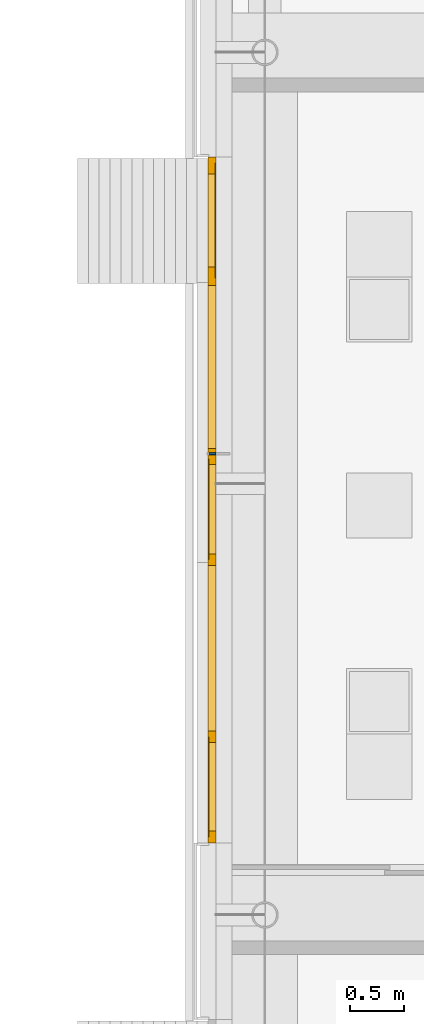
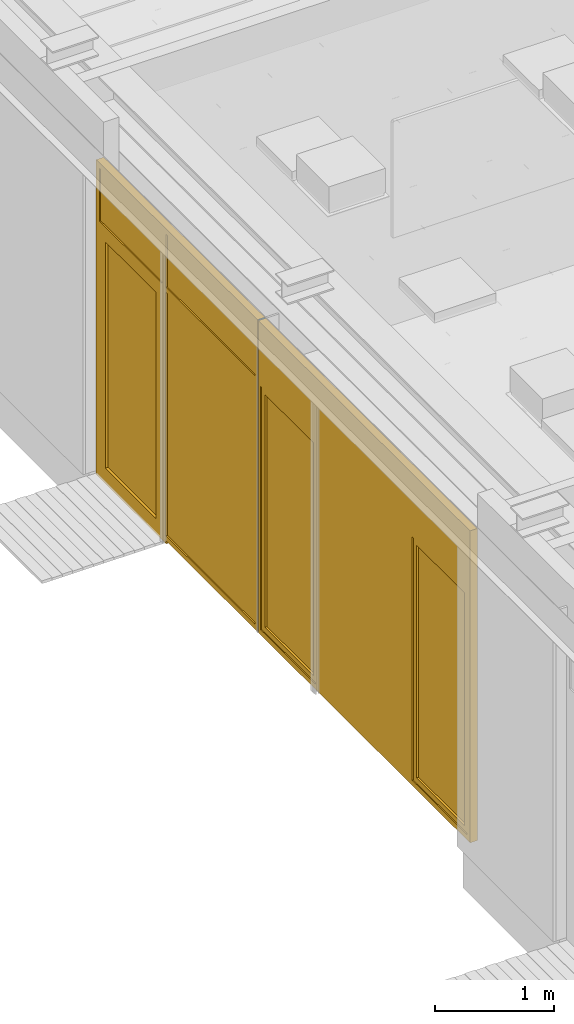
# One storey, part 27 of 347: 1 door, 1 member, 1 window, 2 openings.
"""IFC2X3 building model written with IfcOpenShell, lengths in millimetres."""

import ifcopenshell
import ifcopenshell.guid

model = None  # the IFC model being written
_history = None  # IfcOwnerHistory: only IFC2X3 demands one
_inside = {}  # id of a spatial element -> (the spatial element, [elements in it])
_under = {}  # id of a project, library or spatial element -> (it, [spatial elements below it])
_declared = {}  # id of a project -> (the project, [libraries it declares])
_typed = {}  # id of a type object -> (the type object, [elements of that type])
_made_of = {}  # id of a material, layer set ... -> (it, [elements and type objects made of it])


def new_model(schema):
    """Start an empty IFC model of exactly this schema.

    Asked for "IFC4X3", IfcOpenShell would pick the latest addendum, in which some entities
    have other attributes; the version numbers below select the first issue.
    IFC2X3 requires an IfcOwnerHistory on every rooted entity: one is made here for all.
    """
    global model, _history
    if schema == "IFC4X3":
        model = ifcopenshell.file(schema_version=(4, 3, 0, 0))
    else:
        model = ifcopenshell.file(schema=schema)
    _inside.clear()
    _under.clear()
    _declared.clear()
    _typed.clear()
    _made_of.clear()
    _history = None
    if model.schema == "IFC2X3":
        org = make("IfcOrganization", Name="unknown")
        user = make(
            "IfcPersonAndOrganization",
            ThePerson=make("IfcPerson", FamilyName="unknown"),
            TheOrganization=org,
        )
        app = make(
            "IfcApplication",
            ApplicationDeveloper=org,
            Version="unknown",
            ApplicationFullName="unknown",
            ApplicationIdentifier="unknown",
        )
        _history = make(
            "IfcOwnerHistory",
            OwningUser=user,
            OwningApplication=app,
            ChangeAction="ADDED",
            CreationDate=0,
        )
    return model


def make(cls, **values):
    """One entity of the class cls with the attributes given. An attribute that is None is left unset."""
    return model.create_entity(
        cls, **{name: value for name, value in values.items() if value is not None}
    )


def entity(cls, *values):
    """Any entity or typed value of the class cls, its attributes in the order of the schema. None: left unset."""
    e = model.create_entity(cls)
    for i, value in enumerate(values):
        if value is not None:
            e[i] = value
    return e


def rooted(cls, **values):
    """An entity with a GlobalId (a new one), such as an element, a storey or a relation."""
    return make(cls, GlobalId=ifcopenshell.guid.new(), OwnerHistory=_history, **values)


def si_unit(unit_type, name, prefix=None):
    """IfcSIUnit, for example si_unit("LENGTHUNIT", "METRE", prefix="MILLI")."""
    return make("IfcSIUnit", UnitType=unit_type, Prefix=prefix, Name=name)


def converted_unit(unit_type, name, factor, base, dimensions=None, offset=None):
    """IfcConversionBasedUnit, such as the inch: factor (a typed value) times the base unit."""
    return make(
        "IfcConversionBasedUnit"
        if offset is None
        else "IfcConversionBasedUnitWithOffset",
        ConversionOffset=offset,
        Dimensions=None
        if dimensions is None
        else entity("IfcDimensionalExponents", *dimensions),
        UnitType=unit_type,
        Name=name,
        ConversionFactor=make(
            "IfcMeasureWithUnit", ValueComponent=factor, UnitComponent=base
        ),
    )


def derived_unit(unit_type, elements):
    """IfcDerivedUnit: a product of units, each with its exponent."""
    return make(
        "IfcDerivedUnit",
        Elements=[
            make("IfcDerivedUnitElement", Unit=unit, Exponent=power)
            for unit, power in elements
        ],
        UnitType=unit_type,
    )


def money_unit(currency):
    """IfcMonetaryUnit."""
    return make("IfcMonetaryUnit", Currency=currency)


def assignment(units):
    """IfcUnitAssignment: the units of a project."""
    return None if units is None else make("IfcUnitAssignment", Units=units)


def point(xyz):
    """IfcCartesianPoint."""
    return None if xyz is None else make("IfcCartesianPoint", Coordinates=xyz)


def direction(xyz):
    """IfcDirection."""
    return None if xyz is None else make("IfcDirection", DirectionRatios=xyz)


def frame(location, z_axis=None, x_axis=None):
    """IfcAxis2Placement3D, a coordinate frame: its origin and axes. An axis left out is left unset."""
    return make(
        "IfcAxis2Placement3D",
        Location=point(location),
        Axis=direction(z_axis),
        RefDirection=direction(x_axis),
    )


def origin_with_axes():
    """The frame at (0, 0, 0) with the z axis (0, 0, 1) and the x axis (1, 0, 0) written out."""
    return frame((0.0, 0.0, 0.0), z_axis=(0.0, 0.0, 1.0), x_axis=(1.0, 0.0, 0.0))


def place(relative_to, where):
    """IfcLocalPlacement: puts the frame where relative to a parent placement (None: the world)."""
    return make(
        "IfcLocalPlacement", PlacementRelTo=relative_to, RelativePlacement=where
    )


def context(
    kind, dimensions, precision=None, world=None, true_north=None, identifier=None
):
    """IfcGeometricRepresentationContext, for example the 3D "Model" context."""
    return make(
        "IfcGeometricRepresentationContext",
        ContextIdentifier=identifier,
        ContextType=kind,
        CoordinateSpaceDimension=dimensions,
        Precision=precision,
        WorldCoordinateSystem=world,
        TrueNorth=true_north,
    )


def subcontext(parent, identifier, kind, view, scale=None):
    """IfcGeometricRepresentationSubContext, for example "Body" below "Model"."""
    return make(
        "IfcGeometricRepresentationSubContext",
        ContextIdentifier=identifier,
        ContextType=kind,
        ParentContext=parent,
        TargetScale=scale,
        TargetView=view,
    )


def project(units=None, contexts=None):
    """IfcProject with its units and contexts."""
    return rooted(
        "IfcProject",
        Name="project",
        RepresentationContexts=contexts,
        UnitsInContext=assignment(units),
    )


def spatial(cls, under=None, at=None, **own):
    """A site, building, storey or space (cls), placed at a placement, below another one or the project."""
    s = rooted(cls, ObjectPlacement=at, **own)
    if under is not None:
        _under.setdefault(under.id(), (under, []))[1].append(s)
    return s


def faces_of(points, faces, orient=None, outer=None):
    """IfcFace entities. A face is a list of loops; a loop is a list of indices into points, from 0.

    orient and outer hold one flag for each loop. By default every Orientation is true, the
    first loop of a face is its IfcFaceOuterBound and the others are IfcFaceBound.
    """
    made = []
    for i, loops in enumerate(faces):
        bounds = []
        for j, loop in enumerate(loops):
            is_outer = j == 0 if outer is None else outer[i][j]
            bounds.append(
                make(
                    "IfcFaceOuterBound" if is_outer else "IfcFaceBound",
                    Bound=make("IfcPolyLoop", Polygon=[points[k] for k in loop]),
                    Orientation=True if orient is None else orient[i][j],
                )
            )
        made.append(make("IfcFace", Bounds=bounds))
    return made


def open_shell(faces, orient=None, outer=None):
    """The faces of one IfcOpenShell. surface_model builds it on its shared points."""
    return ("IfcOpenShell", faces, orient, outer)


def faceted_brep(points, faces, orient=None, outer=None, voids=None):
    """IfcFacetedBrep: a solid bounded by flat faces; with voids (closed shells), ...WithVoids."""
    shared = [point(p) for p in points]
    hull = make("IfcClosedShell", CfsFaces=faces_of(shared, faces, orient, outer))
    if voids is None:
        return make("IfcFacetedBrep", Outer=hull)
    return make(
        "IfcFacetedBrepWithVoids",
        Outer=hull,
        Voids=[
            make(cls, CfsFaces=faces_of(shared, fs, o, b)) for cls, fs, o, b in voids
        ],
    )


def surface_model(cls, points, shells):
    """IfcFaceBasedSurfaceModel or IfcShellBasedSurfaceModel (cls): surfaces that need not close."""
    shared = [point(p) for p in points]
    made = [make(c, CfsFaces=faces_of(shared, fs, o, b)) for c, fs, o, b in shells]
    if cls == "IfcFaceBasedSurfaceModel":
        return make(cls, FbsmFaces=made)
    return make(cls, SbsmBoundary=made)


def shape(context_of_items, identifier, shape_type, items):
    """IfcShapeRepresentation: the items that make up one representation, for example the "Body"."""
    return make(
        "IfcShapeRepresentation",
        ContextOfItems=context_of_items,
        RepresentationIdentifier=identifier,
        RepresentationType=shape_type,
        Items=items,
    )


def material(Name=None, Category=None):
    """IfcMaterial."""
    return make("IfcMaterial", Name=Name, Category=Category)


def made_of(thing, what):
    """Note that an element or type object is made of a material, layer set ...; save() writes the relation."""
    if what is not None:
        _made_of.setdefault(what.id(), (what, []))[1].append(thing)
    return thing


def type_object(cls, material=None, **own):
    """A type object (cls), such as IfcWallType, which elements share."""
    return made_of(rooted(cls, **own), material)


def element(
    cls,
    number,
    at=None,
    inside=None,
    cuts=None,
    type_object=None,
    material=None,
    context=None,
    identifier="Body",
    shape_type=None,
    held_by="IfcProductDefinitionShape",
    body=None,
    shapes=None,
    **own,
):
    """One element of the class cls, such as IfcWall. Its Tag is "e" and its number.

    at: its placement. inside: the storey or other place that contains it. cuts: it is an
    opening in that element (IfcRelVoidsElement). A single representation is given by context,
    identifier, shape_type and body (its items); several are given by shapes. held_by: the class
    of the entity that holds the representations. save() writes the other relations.
    """
    e = rooted(cls, Tag="e%d" % number, ObjectPlacement=at, **own)
    if body is not None:
        shapes = [shape(context, identifier, shape_type, body)]
    if shapes is not None:
        e.Representation = make(held_by, Representations=shapes)
    if inside is not None:
        _inside.setdefault(inside.id(), (inside, []))[1].append(e)
    if cuts is not None:
        rooted(
            "IfcRelVoidsElement", RelatingBuildingElement=cuts, RelatedOpeningElement=e
        )
    if type_object is not None:
        _typed.setdefault(type_object.id(), (type_object, []))[1].append(e)
    return made_of(e, material)


def fill(opening, filler):
    """IfcRelFillsElement: the door or window that sits in an opening."""
    return rooted(
        "IfcRelFillsElement",
        RelatingOpeningElement=opening,
        RelatedBuildingElement=filler,
    )


def aggregate(whole, parts):
    """IfcRelAggregates: a whole, such as a stair, and the parts it consists of."""
    return rooted("IfcRelAggregates", RelatingObject=whole, RelatedObjects=parts)


def save(model, path):
    """Write the relations noted so far, then the file.

    IfcRelAggregates (storeys below a building ...), IfcRelContainedInSpatialStructure (elements
    in a storey), IfcRelDefinesByType, IfcRelAssociatesMaterial and IfcRelDeclares: one each for
    every whole, place, type object, material and project.
    """
    for whole, parts in _under.values():
        aggregate(whole, parts)
    for where, things in _inside.values():
        rooted(
            "IfcRelContainedInSpatialStructure",
            RelatedElements=things,
            RelatingStructure=where,
        )
    for kind, things in _typed.values():
        rooted("IfcRelDefinesByType", RelatedObjects=things, RelatingType=kind)
    for what, things in _made_of.values():
        rooted("IfcRelAssociatesMaterial", RelatedObjects=things, RelatingMaterial=what)
    for by, libraries in _declared.values():
        rooted("IfcRelDeclares", RelatingContext=by, RelatedDefinitions=libraries)
    model.write(path)


model = new_model("IFC2X3")

# Units and contexts
model_context = context("Model", 3, precision=0.01, world=origin_with_axes(), true_north=direction((0.0, 1.0)))
plan_context = context("Plan", 3, precision=0.01, world=origin_with_axes(), true_north=direction((0.0, 1.0)))
body_context = subcontext(model_context, "Body", "Model", "MODEL_VIEW")
ifc_project = project(units=[si_unit("LENGTHUNIT", "METRE", prefix="MILLI"), si_unit("AREAUNIT", "SQUARE_METRE"), si_unit("VOLUMEUNIT", "CUBIC_METRE"), converted_unit("PLANEANGLEUNIT", "DEGREE", entity("IfcPlaneAngleMeasure", 0.0174532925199), si_unit("PLANEANGLEUNIT", "RADIAN"), dimensions=[0, 0, 0, 0, 0, 0, 0]), money_unit("EUR"), converted_unit("TIMEUNIT", "Year", entity("IfcTimeMeasure", 31556926.0), si_unit("TIMEUNIT", "SECOND"), dimensions=[0, 0, 1, 0, 0, 0, 0]), si_unit("MASSUNIT", "GRAM", prefix="KILO"), si_unit("THERMODYNAMICTEMPERATUREUNIT", "DEGREE_CELSIUS"), si_unit("LUMINOUSINTENSITYUNIT", "LUMEN"), si_unit("ENERGYUNIT", "JOULE", prefix="MEGA"), derived_unit("THERMALCONDUCTANCEUNIT", [(si_unit("POWERUNIT", "WATT"), 1), (si_unit("LENGTHUNIT", "METRE"), -1), (si_unit("THERMODYNAMICTEMPERATUREUNIT", "KELVIN"), -1)]), derived_unit("SPECIFICHEATCAPACITYUNIT", [(si_unit("ENERGYUNIT", "JOULE"), 1), (si_unit("MASSUNIT", "GRAM", prefix="KILO"), -1), (si_unit("THERMODYNAMICTEMPERATUREUNIT", "KELVIN"), -1)]), derived_unit("MASSDENSITYUNIT", [(si_unit("MASSUNIT", "GRAM", prefix="KILO"), 1), (si_unit("VOLUMEUNIT", "CUBIC_METRE"), -1)])], contexts=[model_context, plan_context])

# Site, building, storey
site_placement = place(None, origin_with_axes())
site = spatial("IfcSite", under=ifc_project, at=site_placement, Name="Site", CompositionType="ELEMENT")
building_placement = place(site_placement, origin_with_axes())
building = spatial("IfcBuilding", under=site, at=building_placement, Name="Naam gebouw", CompositionType="ELEMENT")
storey_placement = place(building_placement, origin_with_axes())
storey = spatial("IfcBuildingStorey", under=building, at=storey_placement, Name="begane grond", CompositionType="ELEMENT", Elevation=0.0)

# Member, openings, door, window
ifc_material = material(Name="31 pui/kozijn")
member_type = type_object("IfcMemberType", Name="31 pui (3200+) 62 x 3200", PredefinedType="MEMBER")
member_placement = place(storey_placement, frame((24275.0, 35237.5, 0.0), z_axis=(0.0, 0.0, 1.0), x_axis=(0.0, -1.0, 0.0)))
member = element("IfcMember", 1, at=member_placement, inside=storey, type_object=member_type, material=ifc_material, Name="21_31 buitenkozijn pui", ObjectType="MEMBER", context=body_context, shape_type="Brep", body=[
    faceted_brep([(2717.5, -150.0, 0.0), (2717.5, -150.0, 3200.0), (2732.5, -150.0, 3200.0), (2732.5, -150.0, 0.0), (2717.5, -212.0, 3200.0), (2717.5, -212.0, 0.0), (2732.5, -212.0, 3200.0), (2732.5, -212.0, 0.0)], [[[0, 1, 2, 3]], [[4, 1, 0, 5]], [[1, 4, 6, 2]], [[2, 6, 7, 3]], [[5, 0, 3, 7]], [[4, 5, 7, 6]]]),
])
opening_1_placement = place(member_placement, frame((4516.25, 0.0, -10.0), z_axis=(0.0, 0.0, 1.0), x_axis=(1.0, 0.0, 0.0)))
opening_1 = element("IfcOpeningElement", 2, at=opening_1_placement, cuts=member, Name="31_merk-AJ2", context=body_context, shape_type="Brep", body=[
    faceted_brep([(1783.75, 1320.0, 0.0), (1783.75, 1320.0, 3210.0), (1783.75, -1196.0, 3210.0), (1783.75, -1196.0, 0.0), (-1783.75, 1320.0, 0.0), (-1783.75, 1320.0, 3210.0), (-1783.75, -1196.0, 3210.0), (-1783.75, -1196.0, 0.0)], [[[0, 1, 2, 3]], [[0, 4, 5, 1]], [[1, 5, 6, 2]], [[3, 2, 6, 7]], [[4, 0, 3, 7]], [[5, 4, 7, 6]]]),
])
opening_2_placement = place(member_placement, frame((1358.75, 0.0, -40.0), z_axis=(0.0, 0.0, 1.0), x_axis=(1.0, 0.0, 0.0)))
opening_2 = element("IfcOpeningElement", 3, at=opening_2_placement, cuts=member, Name="32_merk-AJ1", context=body_context, shape_type="Brep", body=[
    faceted_brep([(1358.75, 1320.0, 30.0000107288), (1358.75, 1320.0, 3240.0), (1358.75, -1196.0, 3240.0), (1358.75, -1196.0, 30.0000107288), (-181.750005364, 1320.0, 30.0000107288), (-181.750005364, 1320.0, 0.0), (-1358.74998212, 1320.0, 0.0), (-1358.74998212, 1320.0, 3240.0), (-1358.74998212, -1196.0, 3240.0), (-1358.74998212, -1196.0, 0.0), (-181.750005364, -1196.0, 0.0), (-181.750005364, -1196.0, 30.0000107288)], [[[0, 1, 2, 3]], [[0, 4, 5, 6, 7, 1]], [[1, 7, 8, 2]], [[3, 2, 8, 9, 10, 11]], [[4, 0, 3, 11]], [[5, 4, 11, 10]], [[6, 5, 10, 9]], [[7, 6, 9, 8]]]),
])
door_style = type_object("IfcDoorStyle", Name="D1 bl zl1-b 25", ConstructionType="NOTDEFINED", OperationType="SINGLE_SWING_RIGHT", ParameterTakesPrecedence=False, Sizeable=False)
door_placement = place(opening_2_placement, frame((1358.75, 0.0, 0.0), z_axis=(0.0, 0.0, 1.0), x_axis=(-1.0, 0.0, 0.0)))
door = element("IfcDoor", 4, at=door_placement, inside=storey, type_object=door_style, Name="32_merk-AJ1", ObjectType="DOOR", OverallHeight=3240.0, OverallWidth=2717.5, context=body_context, shape_type="SurfaceModel", body=[
    faceted_brep([(2663.5, 222.0, 0.0), (2663.5, 150.0, 0.0), (1608.5, 150.0, 0.0), (1608.5, 222.0, 0.0), (2663.5, 222.0, 48.0), (2663.5, 150.0, 48.0), (1608.5, 150.0, 48.0), (1608.5, 222.0, 48.0)], [[[0, 1, 2, 3]], [[0, 4, 5, 1]], [[1, 5, 6, 2]], [[3, 2, 6, 7]], [[4, 0, 3, 7]], [[5, 4, 7, 6]]]),
    faceted_brep([(0.0, 222.0, 30.0), (39.0, 222.0, 30.0), (39.0, 150.0, 30.0), (0.0, 150.0, 30.0), (0.0, 222.0, 3186.0), (39.0, 222.0, 3186.0), (39.0, 222.0, 2640.0), (39.0, 222.0, 2586.0), (39.0, 222.0, 84.0), (39.0, 150.0, 84.0), (39.0, 150.0, 2586.0), (39.0, 150.0, 2640.0), (39.0, 150.0, 3186.0), (0.0, 150.0, 3186.0)], [[[0, 1, 2, 3]], [[0, 4, 5, 6, 7, 8, 1]], [[1, 8, 9, 2]], [[3, 2, 9, 10, 11, 12, 13]], [[4, 0, 3, 13]], [[5, 4, 13, 12]], [[6, 5, 12, 11]], [[7, 6, 11, 10]], [[8, 7, 10, 9]]]),
    faceted_brep([(1540.5, 222.0, 3186.0), (1540.5, 222.0, 2640.0), (1540.5, 150.0, 2640.0), (1540.5, 150.0, 3186.0), (1608.5, 222.0, 3186.0), (1608.5, 222.0, 2640.0), (1608.5, 222.0, 2586.0), (1608.5, 222.0, 0.0), (1540.5, 222.0, 0.0), (1540.5, 222.0, 30.0), (1540.5, 222.0, 84.0), (1540.5, 222.0, 2586.0), (1540.5, 150.0, 2586.0), (1540.5, 150.0, 84.0), (1540.5, 150.0, 30.0), (1540.5, 150.0, 0.0), (1608.5, 150.0, 0.0), (1608.5, 150.0, 2586.0), (1608.5, 150.0, 2640.0), (1608.5, 150.0, 3186.0)], [[[0, 1, 2, 3]], [[0, 4, 5, 6, 7, 8, 9, 10, 11, 1]], [[1, 11, 12, 2]], [[3, 2, 12, 13, 14, 15, 16, 17, 18, 19]], [[4, 0, 3, 19]], [[5, 4, 19, 18]], [[6, 5, 18, 17]], [[7, 6, 17, 16]], [[8, 7, 16, 15]], [[9, 8, 15, 14]], [[10, 9, 14, 13]], [[11, 10, 13, 12]]]),
    faceted_brep([(39.0, 222.0, 84.0), (39.0, 222.0, 30.0), (39.0, 150.0, 30.0), (39.0, 150.0, 84.0), (1540.5, 222.0, 84.0), (1540.5, 222.0, 30.0), (1540.5, 150.0, 30.0), (1540.5, 150.0, 84.0)], [[[0, 1, 2, 3]], [[0, 4, 5, 1]], [[1, 5, 6, 2]], [[3, 2, 6, 7]], [[4, 0, 3, 7]], [[5, 4, 7, 6]]]),
    faceted_brep([(2717.5, 222.0, 0.0), (2717.5, 222.0, 3186.0), (2717.5, 150.0, 3186.0), (2717.5, 150.0, 0.0), (2663.5, 222.0, 0.0), (2663.5, 222.0, 2586.0), (2663.5, 222.0, 2640.0), (2663.5, 222.0, 3186.0), (2663.5, 150.0, 3186.0), (2663.5, 150.0, 2640.0), (2663.5, 150.0, 2586.0), (2663.5, 150.0, 0.0)], [[[0, 1, 2, 3]], [[0, 4, 5, 6, 7, 1]], [[1, 7, 8, 2]], [[3, 2, 8, 9, 10, 11]], [[4, 0, 3, 11]], [[5, 4, 11, 10]], [[6, 5, 10, 9]], [[7, 6, 9, 8]]]),
    faceted_brep([(0.0, 222.0, 3240.0), (0.0, 222.0, 3186.0), (0.0, 150.0, 3186.0), (0.0, 150.0, 3240.0), (2717.5, 222.0, 3240.0), (2717.5, 222.0, 3186.0), (2663.5, 222.0, 3186.0), (1608.5, 222.0, 3186.0), (1540.5, 222.0, 3186.0), (39.0, 222.0, 3186.0), (39.0, 150.0, 3186.0), (1540.5, 150.0, 3186.0), (1608.5, 150.0, 3186.0), (2663.5, 150.0, 3186.0), (2717.5, 150.0, 3186.0), (2717.5, 150.0, 3240.0)], [[[0, 1, 2, 3]], [[0, 4, 5, 6, 7, 8, 9, 1]], [[1, 9, 10, 2]], [[3, 2, 10, 11, 12, 13, 14, 15]], [[4, 0, 3, 15]], [[5, 4, 15, 14]], [[6, 5, 14, 13]], [[7, 6, 13, 12]], [[8, 7, 12, 11]], [[9, 8, 11, 10]]]),
    faceted_brep([(39.0, 222.0, 2586.0), (1540.5, 222.0, 2586.0), (1540.5, 150.0, 2586.0), (39.0, 150.0, 2586.0), (39.0, 222.0, 2640.0), (1540.5, 222.0, 2640.0), (1540.5, 150.0, 2640.0), (39.0, 150.0, 2640.0)], [[[0, 1, 2, 3]], [[0, 4, 5, 1]], [[1, 5, 6, 2]], [[3, 2, 6, 7]], [[4, 0, 3, 7]], [[5, 4, 7, 6]]]),
    faceted_brep([(1608.5, 222.0, 2640.0), (1608.5, 222.0, 2586.0), (1608.5, 150.0, 2586.0), (1608.5, 150.0, 2640.0), (2663.5, 222.0, 2640.0), (2663.5, 222.0, 2586.0), (2663.5, 150.0, 2586.0), (2663.5, 150.0, 2640.0)], [[[0, 1, 2, 3]], [[0, 4, 5, 1]], [[1, 5, 6, 2]], [[3, 2, 6, 7]], [[4, 0, 3, 7]], [[5, 4, 7, 6]]]),
    faceted_brep([(2663.5, 222.0, 158.0), (2663.5, 160.0, 158.0), (2563.5, 160.0, 158.0), (2563.5, 222.0, 158.0), (2663.5, 222.0, 2486.0), (2663.5, 160.0, 2486.0), (2563.5, 160.0, 2486.0), (2563.5, 222.0, 2486.0)], [[[0, 1, 2, 3]], [[4, 5, 1, 0]], [[1, 5, 6, 2]], [[3, 2, 6, 7]], [[0, 3, 7, 4]], [[7, 6, 5, 4]]]),
    faceted_brep([(1608.5, 222.0, 158.0), (1608.5, 160.0, 158.0), (1608.5, 160.0, 2486.0), (1608.5, 222.0, 2486.0), (1708.5, 222.0, 158.0), (1708.5, 160.0, 158.0), (1708.5, 160.0, 2486.0), (1708.5, 222.0, 2486.0)], [[[0, 1, 2, 3]], [[4, 5, 1, 0]], [[1, 5, 6, 2]], [[3, 2, 6, 7]], [[0, 3, 7, 4]], [[7, 6, 5, 4]]]),
    faceted_brep([(2663.5, 222.0, 48.0), (2663.5, 160.0, 48.0), (1608.5, 160.0, 48.0), (1608.5, 222.0, 48.0), (2663.5, 222.0, 158.0), (2663.5, 160.0, 158.0), (2563.5, 160.0, 158.0), (1708.5, 160.0, 158.0), (1608.5, 160.0, 158.0), (1608.5, 222.0, 158.0), (1708.5, 222.0, 158.0), (2563.5, 222.0, 158.0)], [[[0, 1, 2, 3]], [[4, 5, 1, 0]], [[1, 5, 6, 7, 8, 2]], [[3, 2, 8, 9]], [[0, 3, 9, 10, 11, 4]], [[11, 6, 5, 4]], [[10, 7, 6, 11]], [[9, 8, 7, 10]]]),
    faceted_brep([(2663.5, 222.0, 2586.0), (2663.5, 160.0, 2586.0), (2663.5, 160.0, 2486.0), (2663.5, 222.0, 2486.0), (1608.5, 222.0, 2586.0), (1608.5, 160.0, 2586.0), (1608.5, 160.0, 2486.0), (1708.5, 160.0, 2486.0), (2563.5, 160.0, 2486.0), (2563.5, 222.0, 2486.0), (1708.5, 222.0, 2486.0), (1608.5, 222.0, 2486.0)], [[[0, 1, 2, 3]], [[4, 5, 1, 0]], [[1, 5, 6, 7, 8, 2]], [[3, 2, 8, 9]], [[0, 3, 9, 10, 11, 4]], [[11, 6, 5, 4]], [[10, 7, 6, 11]], [[9, 8, 7, 10]]]),
    surface_model("IfcShellBasedSurfaceModel", [(2563.5, 197.0, 158.0), (1708.5, 197.0, 158.0), (1708.5, 197.0, 2486.0), (2563.5, 197.0, 2486.0)], [open_shell([[[0, 1, 2, 3]]])]),
    surface_model("IfcShellBasedSurfaceModel", [(2563.5, 185.0, 158.0), (2563.5, 185.0, 2486.0), (1708.5, 185.0, 2486.0), (1708.5, 185.0, 158.0)], [open_shell([[[0, 1, 2, 3]]])]),
    surface_model("IfcShellBasedSurfaceModel", [(39.0, 210.0, 2640.0), (39.0, 210.0, 3186.0), (1540.5, 210.0, 3186.0), (1540.5, 210.0, 2640.0)], [open_shell([[[0, 1, 2, 3]]])]),
    surface_model("IfcShellBasedSurfaceModel", [(39.0, 198.0, 2640.0), (1540.5, 198.0, 2640.0), (1540.5, 198.0, 3186.0), (39.0, 198.0, 3186.0)], [open_shell([[[0, 1, 2, 3]]])]),
    surface_model("IfcShellBasedSurfaceModel", [(1608.5, 210.0, 2640.0), (1608.5, 210.0, 3186.0), (2663.5, 210.0, 3186.0), (2663.5, 210.0, 2640.0)], [open_shell([[[0, 1, 2, 3]]])]),
    surface_model("IfcShellBasedSurfaceModel", [(1608.5, 198.0, 2640.0), (2663.5, 198.0, 2640.0), (2663.5, 198.0, 3186.0), (1608.5, 198.0, 3186.0)], [open_shell([[[0, 1, 2, 3]]])]),
    surface_model("IfcShellBasedSurfaceModel", [(39.0, 210.0, 84.0), (39.0, 210.0, 2586.0), (1540.5, 210.0, 2586.0), (1540.5, 210.0, 84.0)], [open_shell([[[0, 1, 2, 3]]])]),
    surface_model("IfcShellBasedSurfaceModel", [(39.0, 198.0, 84.0), (1540.5, 198.0, 84.0), (1540.5, 198.0, 2586.0), (39.0, 198.0, 2586.0)], [open_shell([[[0, 1, 2, 3]]])]),
])
fill(opening_2, door)
window_style = type_object("IfcWindowStyle", Name="R3 bl ol 25", ConstructionType="NOTDEFINED", OperationType="USERDEFINED", ParameterTakesPrecedence=False, Sizeable=False)
window_placement = place(opening_1_placement, frame((-1783.75, 0.0, 0.0), z_axis=(0.0, 0.0, 1.0), x_axis=(1.0, 0.0, 0.0)))
window = element("IfcWindow", 5, at=window_placement, inside=storey, type_object=window_style, Name="31_merk-AJ2", ObjectType="WINDOW", OverallHeight=3210.0, OverallWidth=3567.5, context=body_context, shape_type="SurfaceModel", body=[
    faceted_brep([(24.0, -150.0, 54.0), (0.0, -150.0, 54.0), (0.0, -150.0, 3156.0), (39.0, -150.0, 3156.0), (39.0, -150.0, 2610.0), (39.0, -150.0, 2571.0), (24.0, -150.0, 2571.0), (24.0, -212.0, 54.0), (39.0, -212.0, 54.0), (39.0, -222.0, 54.0), (0.0, -222.0, 54.0), (0.0, -222.0, 3156.0), (39.0, -222.0, 3156.0), (39.0, -222.0, 2610.0), (39.0, -212.0, 2571.0), (39.0, -222.0, 2556.0), (39.0, -212.0, 2556.0), (24.0, -212.0, 2571.0)], [[[0, 1, 2, 3, 4, 5, 6]], [[7, 8, 9, 10, 1, 0]], [[2, 1, 10, 11]], [[3, 2, 11, 12]], [[4, 3, 12, 13]], [[14, 5, 4, 13, 15, 16]], [[14, 17, 6, 5]], [[6, 17, 7, 0]], [[16, 8, 7, 17, 14]], [[16, 15, 9, 8]], [[13, 12, 11, 10, 9, 15]]]),
    faceted_brep([(3528.5, -150.0, 2571.0), (3513.5, -150.0, 2571.0), (3513.5, -150.0, 2610.0), (3513.5, -150.0, 3156.0), (3567.5, -150.0, 3156.0), (3567.5, -150.0, 54.0), (3528.5, -150.0, 54.0), (3528.5, -212.0, 2571.0), (3513.5, -212.0, 2571.0), (3513.5, -212.0, 2556.0), (3513.5, -222.0, 2556.0), (3513.5, -222.0, 2610.0), (3513.5, -222.0, 3156.0), (3567.5, -222.0, 3156.0), (3567.5, -222.0, 54.0), (3528.5, -212.0, 54.0), (3513.5, -222.0, 54.0), (3513.5, -212.0, 54.0)], [[[0, 1, 2, 3, 4, 5, 6]], [[0, 7, 8, 1]], [[8, 9, 10, 11, 2, 1]], [[3, 2, 11, 12]], [[4, 3, 12, 13]], [[5, 4, 13, 14]], [[15, 6, 5, 14, 16, 17]], [[6, 15, 7, 0]], [[17, 9, 8, 7, 15]], [[17, 16, 10, 9]], [[14, 13, 12, 11, 10, 16]]]),
    faceted_brep([(2579.5, -150.0, 54.0), (2540.5, -150.0, 54.0), (2540.5, -150.0, 2556.0), (2540.5, -150.0, 2610.0), (2540.5, -150.0, 3156.0), (2594.5, -150.0, 3156.0), (2594.5, -150.0, 2610.0), (2594.5, -150.0, 2571.0), (2579.5, -150.0, 2571.0), (2579.5, -212.0, 54.0), (2594.5, -212.0, 54.0), (2594.5, -222.0, 54.0), (2540.5, -222.0, 54.0), (2540.5, -222.0, 2556.0), (2540.5, -222.0, 2610.0), (2540.5, -222.0, 3156.0), (2594.5, -222.0, 3156.0), (2594.5, -222.0, 2610.0), (2594.5, -212.0, 2571.0), (2594.5, -222.0, 2556.0), (2594.5, -212.0, 2556.0), (2579.5, -212.0, 2571.0)], [[[0, 1, 2, 3, 4, 5, 6, 7, 8]], [[9, 10, 11, 12, 1, 0]], [[2, 1, 12, 13]], [[3, 2, 13, 14]], [[4, 3, 14, 15]], [[5, 4, 15, 16]], [[6, 5, 16, 17]], [[18, 7, 6, 17, 19, 20]], [[18, 21, 8, 7]], [[8, 21, 9, 0]], [[20, 10, 9, 21, 18]], [[20, 19, 11, 10]], [[13, 12, 11, 19, 17, 16, 15, 14]]]),
    faceted_brep([(980.5, -150.0, 2571.0), (965.5, -150.0, 2571.0), (965.5, -150.0, 2610.0), (965.5, -150.0, 3156.0), (1019.5, -150.0, 3156.0), (1019.5, -150.0, 2610.0), (1019.5, -150.0, 2556.0), (1019.5, -150.0, 54.0), (980.5, -150.0, 54.0), (980.5, -212.0, 2571.0), (965.5, -212.0, 2571.0), (965.5, -212.0, 2556.0), (965.5, -222.0, 2556.0), (965.5, -222.0, 2610.0), (965.5, -222.0, 3156.0), (1019.5, -222.0, 3156.0), (1019.5, -222.0, 2610.0), (1019.5, -222.0, 2556.0), (1019.5, -222.0, 54.0), (980.5, -212.0, 54.0), (965.5, -222.0, 54.0), (965.5, -212.0, 54.0)], [[[0, 1, 2, 3, 4, 5, 6, 7, 8]], [[0, 9, 10, 1]], [[10, 11, 12, 13, 2, 1]], [[3, 2, 13, 14]], [[4, 3, 14, 15]], [[5, 4, 15, 16]], [[6, 5, 16, 17]], [[7, 6, 17, 18]], [[19, 8, 7, 18, 20, 21]], [[8, 19, 9, 0]], [[21, 11, 10, 9, 19]], [[21, 20, 12, 11]], [[14, 13, 12, 20, 18, 17, 16, 15]]]),
    faceted_brep([(2594.5, -150.0, 2571.0), (2594.5, -150.0, 2610.0), (3513.5, -150.0, 2610.0), (3513.5, -150.0, 2571.0), (2594.5, -212.0, 2571.0), (2594.5, -212.0, 2556.0), (2594.5, -222.0, 2556.0), (2594.5, -222.0, 2610.0), (3513.5, -222.0, 2610.0), (3513.5, -212.0, 2571.0), (3513.5, -222.0, 2556.0), (3513.5, -212.0, 2556.0)], [[[0, 1, 2, 3]], [[4, 5, 6, 7, 1, 0]], [[2, 1, 7, 8]], [[9, 3, 2, 8, 10, 11]], [[9, 4, 0, 3]], [[11, 5, 4, 9]], [[11, 10, 6, 5]], [[8, 7, 6, 10]]]),
    faceted_brep([(1019.5, -150.0, 2610.0), (1019.5, -150.0, 2556.0), (1019.5, -222.0, 2556.0), (1019.5, -222.0, 2610.0), (2540.5, -150.0, 2610.0), (2540.5, -150.0, 2556.0), (2540.5, -222.0, 2556.0), (2540.5, -222.0, 2610.0)], [[[0, 1, 2, 3]], [[4, 5, 1, 0]], [[1, 5, 6, 2]], [[2, 6, 7, 3]], [[4, 0, 3, 7]], [[5, 4, 7, 6]]]),
    faceted_brep([(39.0, -150.0, 2571.0), (39.0, -150.0, 2610.0), (965.5, -150.0, 2610.0), (965.5, -150.0, 2571.0), (39.0, -212.0, 2571.0), (39.0, -212.0, 2556.0), (39.0, -222.0, 2556.0), (39.0, -222.0, 2610.0), (965.5, -222.0, 2610.0), (965.5, -212.0, 2571.0), (965.5, -222.0, 2556.0), (965.5, -212.0, 2556.0)], [[[0, 1, 2, 3]], [[4, 5, 6, 7, 1, 0]], [[2, 1, 7, 8]], [[9, 3, 2, 8, 10, 11]], [[9, 4, 0, 3]], [[11, 5, 4, 9]], [[11, 10, 6, 5]], [[8, 7, 6, 10]]]),
    faceted_brep([(965.5, -212.0, 54.0), (965.5, -222.0, 54.0), (1019.5, -222.0, 54.0), (1019.5, -150.0, 54.0), (980.5, -150.0, 54.0), (980.5, -212.0, 54.0), (39.0, -212.0, 54.0), (39.0, -222.0, 54.0), (0.0, -222.0, 54.0), (0.0, -222.0, 0.0), (3567.5, -222.0, 0.0), (3567.5, -222.0, 54.0), (3513.5, -222.0, 54.0), (2594.5, -222.0, 54.0), (2540.5, -222.0, 54.0), (2540.5, -150.0, 54.0), (24.0, -150.0, 39.0), (980.5, -150.0, 39.0), (2579.5, -150.0, 54.0), (2579.5, -150.0, 39.0), (3528.5, -150.0, 39.0), (3528.5, -150.0, 54.0), (3567.5, -150.0, 54.0), (3567.5, -150.0, 0.0), (0.0, -150.0, 0.0), (0.0, -150.0, 54.0), (24.0, -150.0, 54.0), (980.5, -212.0, 39.0), (24.0, -212.0, 39.0), (24.0, -212.0, 54.0), (3513.5, -212.0, 54.0), (3528.5, -212.0, 54.0), (2594.5, -212.0, 54.0), (2579.5, -212.0, 54.0), (2579.5, -212.0, 39.0), (3528.5, -212.0, 39.0)], [[[0, 1, 2, 3, 4, 5]], [[6, 7, 1, 0]], [[8, 9, 10, 11, 12, 13, 14, 2, 1, 7]], [[15, 3, 2, 14]], [[16, 17, 4, 3, 15, 18, 19, 20, 21, 22, 23, 24, 25, 26]], [[17, 27, 5, 4]], [[5, 27, 28, 29, 6, 0]], [[29, 26, 25, 8, 7, 6]], [[25, 24, 9, 8]], [[24, 23, 10, 9]], [[23, 22, 11, 10]], [[30, 12, 11, 22, 21, 31]], [[32, 13, 12, 30]], [[33, 18, 15, 14, 13, 32]], [[16, 28, 27, 17]], [[33, 34, 19, 18]], [[19, 34, 35, 20]], [[20, 35, 31, 21]], [[29, 28, 16, 26]], [[31, 35, 34, 33, 32, 30]]]),
    faceted_brep([(965.5, -222.0, 3156.0), (965.5, -150.0, 3156.0), (1019.5, -150.0, 3156.0), (1019.5, -222.0, 3156.0), (39.0, -222.0, 3156.0), (39.0, -150.0, 3156.0), (0.0, -150.0, 3156.0), (0.0, -150.0, 3210.0), (3567.5, -150.0, 3210.0), (3567.5, -150.0, 3156.0), (3513.5, -150.0, 3156.0), (2594.5, -150.0, 3156.0), (2540.5, -150.0, 3156.0), (2540.5, -222.0, 3156.0), (2594.5, -222.0, 3156.0), (3513.5, -222.0, 3156.0), (3567.5, -222.0, 3156.0), (3567.5, -222.0, 3210.0), (0.0, -222.0, 3210.0), (0.0, -222.0, 3156.0)], [[[0, 1, 2, 3]], [[4, 5, 1, 0]], [[1, 5, 6, 7, 8, 9, 10, 11, 12, 2]], [[3, 2, 12, 13]], [[0, 3, 13, 14, 15, 16, 17, 18, 19, 4]], [[19, 6, 5, 4]], [[18, 7, 6, 19]], [[17, 8, 7, 18]], [[16, 9, 8, 17]], [[15, 10, 9, 16]], [[14, 11, 10, 15]], [[13, 12, 11, 14]]]),
    surface_model("IfcShellBasedSurfaceModel", [(39.0, -222.0, 2610.0), (965.5, -222.0, 2610.0), (965.5, -222.0, 3156.0), (39.0, -222.0, 3156.0)], [open_shell([[[0, 1, 2, 3]]])]),
    surface_model("IfcShellBasedSurfaceModel", [(39.0, -202.0, 2610.0), (39.0, -202.0, 3156.0), (965.5, -202.0, 3156.0), (965.5, -202.0, 2610.0)], [open_shell([[[0, 1, 2, 3]]])]),
    surface_model("IfcShellBasedSurfaceModel", [(1019.5, -222.0, 2610.0), (2540.5, -222.0, 2610.0), (2540.5, -222.0, 3156.0), (1019.5, -222.0, 3156.0)], [open_shell([[[0, 1, 2, 3]]])]),
    surface_model("IfcShellBasedSurfaceModel", [(1019.5, -202.0, 2610.0), (1019.5, -202.0, 3156.0), (2540.5, -202.0, 3156.0), (2540.5, -202.0, 2610.0)], [open_shell([[[0, 1, 2, 3]]])]),
    surface_model("IfcShellBasedSurfaceModel", [(2594.5, -222.0, 2610.0), (3513.5, -222.0, 2610.0), (3513.5, -222.0, 3156.0), (2594.5, -222.0, 3156.0)], [open_shell([[[0, 1, 2, 3]]])]),
    surface_model("IfcShellBasedSurfaceModel", [(2594.5, -202.0, 2610.0), (2594.5, -202.0, 3156.0), (3513.5, -202.0, 3156.0), (3513.5, -202.0, 2610.0)], [open_shell([[[0, 1, 2, 3]]])]),
    faceted_brep([(92.0, -212.0, 2503.0), (92.0, -150.0, 2503.0), (24.0, -150.0, 2503.0), (24.0, -212.0, 2503.0), (92.0, -212.0, 107.0), (92.0, -150.0, 107.0), (24.0, -150.0, 107.0), (24.0, -212.0, 107.0)], [[[0, 1, 2, 3]], [[4, 5, 1, 0]], [[1, 5, 6, 2]], [[3, 2, 6, 7]], [[0, 3, 7, 4]], [[7, 6, 5, 4]]]),
    faceted_brep([(912.5, -212.0, 107.0), (912.5, -150.0, 107.0), (980.5, -150.0, 107.0), (980.5, -212.0, 107.0), (912.5, -212.0, 2503.0), (912.5, -150.0, 2503.0), (980.5, -150.0, 2503.0), (980.5, -212.0, 2503.0)], [[[0, 1, 2, 3]], [[4, 5, 1, 0]], [[1, 5, 6, 2]], [[3, 2, 6, 7]], [[0, 3, 7, 4]], [[7, 6, 5, 4]]]),
    faceted_brep([(980.5, -212.0, 39.0), (980.5, -150.0, 39.0), (980.5, -150.0, 107.0), (980.5, -212.0, 107.0), (24.0, -212.0, 39.0), (24.0, -150.0, 39.0), (24.0, -150.0, 107.0), (92.0, -150.0, 107.0), (912.5, -150.0, 107.0), (912.5, -212.0, 107.0), (92.0, -212.0, 107.0), (24.0, -212.0, 107.0)], [[[0, 1, 2, 3]], [[4, 5, 1, 0]], [[1, 5, 6, 7, 8, 2]], [[3, 2, 8, 9]], [[0, 3, 9, 10, 11, 4]], [[11, 6, 5, 4]], [[10, 7, 6, 11]], [[9, 8, 7, 10]]]),
    faceted_brep([(24.0, -212.0, 2571.0), (24.0, -150.0, 2571.0), (24.0, -150.0, 2503.0), (24.0, -212.0, 2503.0), (980.5, -212.0, 2571.0), (980.5, -150.0, 2571.0), (980.5, -150.0, 2503.0), (912.5, -150.0, 2503.0), (92.0, -150.0, 2503.0), (92.0, -212.0, 2503.0), (912.5, -212.0, 2503.0), (980.5, -212.0, 2503.0)], [[[0, 1, 2, 3]], [[4, 5, 1, 0]], [[1, 5, 6, 7, 8, 2]], [[3, 2, 8, 9]], [[0, 3, 9, 10, 11, 4]], [[11, 6, 5, 4]], [[10, 7, 6, 11]], [[9, 8, 7, 10]]]),
    surface_model("IfcShellBasedSurfaceModel", [(92.0, -191.0, 107.0), (912.5, -191.0, 107.0), (912.5, -191.0, 2503.0), (92.0, -191.0, 2503.0)], [open_shell([[[0, 1, 2, 3]]])]),
    surface_model("IfcShellBasedSurfaceModel", [(92.0, -171.0, 107.0), (92.0, -171.0, 2503.0), (912.5, -171.0, 2503.0), (912.5, -171.0, 107.0)], [open_shell([[[0, 1, 2, 3]]])]),
    surface_model("IfcShellBasedSurfaceModel", [(1019.5, -222.0, 54.0), (2540.5, -222.0, 54.0), (2540.5, -222.0, 2556.0), (1019.5, -222.0, 2556.0)], [open_shell([[[0, 1, 2, 3]]])]),
    surface_model("IfcShellBasedSurfaceModel", [(1019.5, -202.0, 54.0), (1019.5, -202.0, 2556.0), (2540.5, -202.0, 2556.0), (2540.5, -202.0, 54.0)], [open_shell([[[0, 1, 2, 3]]])]),
    faceted_brep([(2647.5, -212.0, 2503.0), (2647.5, -150.0, 2503.0), (2579.5, -150.0, 2503.0), (2579.5, -212.0, 2503.0), (2647.5, -212.0, 107.0), (2647.5, -150.0, 107.0), (2579.5, -150.0, 107.0), (2579.5, -212.0, 107.0)], [[[0, 1, 2, 3]], [[4, 5, 1, 0]], [[1, 5, 6, 2]], [[3, 2, 6, 7]], [[0, 3, 7, 4]], [[7, 6, 5, 4]]]),
    faceted_brep([(3460.5, -212.0, 107.0), (3460.5, -150.0, 107.0), (3528.5, -150.0, 107.0), (3528.5, -212.0, 107.0), (3460.5, -212.0, 2503.0), (3460.5, -150.0, 2503.0), (3528.5, -150.0, 2503.0), (3528.5, -212.0, 2503.0)], [[[0, 1, 2, 3]], [[4, 5, 1, 0]], [[1, 5, 6, 2]], [[3, 2, 6, 7]], [[0, 3, 7, 4]], [[7, 6, 5, 4]]]),
    faceted_brep([(3528.5, -212.0, 39.0), (3528.5, -150.0, 39.0), (3528.5, -150.0, 107.0), (3528.5, -212.0, 107.0), (2579.5, -212.0, 39.0), (2579.5, -150.0, 39.0), (2579.5, -150.0, 107.0), (2647.5, -150.0, 107.0), (3460.5, -150.0, 107.0), (3460.5, -212.0, 107.0), (2647.5, -212.0, 107.0), (2579.5, -212.0, 107.0)], [[[0, 1, 2, 3]], [[4, 5, 1, 0]], [[1, 5, 6, 7, 8, 2]], [[3, 2, 8, 9]], [[0, 3, 9, 10, 11, 4]], [[11, 6, 5, 4]], [[10, 7, 6, 11]], [[9, 8, 7, 10]]]),
    faceted_brep([(2579.5, -212.0, 2571.0), (2579.5, -150.0, 2571.0), (2579.5, -150.0, 2503.0), (2579.5, -212.0, 2503.0), (3528.5, -212.0, 2571.0), (3528.5, -150.0, 2571.0), (3528.5, -150.0, 2503.0), (3460.5, -150.0, 2503.0), (2647.5, -150.0, 2503.0), (2647.5, -212.0, 2503.0), (3460.5, -212.0, 2503.0), (3528.5, -212.0, 2503.0)], [[[0, 1, 2, 3]], [[4, 5, 1, 0]], [[1, 5, 6, 7, 8, 2]], [[3, 2, 8, 9]], [[0, 3, 9, 10, 11, 4]], [[11, 6, 5, 4]], [[10, 7, 6, 11]], [[9, 8, 7, 10]]]),
    surface_model("IfcShellBasedSurfaceModel", [(2647.5, -191.0, 107.0), (3460.5, -191.0, 107.0), (3460.5, -191.0, 2503.0), (2647.5, -191.0, 2503.0)], [open_shell([[[0, 1, 2, 3]]])]),
    surface_model("IfcShellBasedSurfaceModel", [(2647.5, -171.0, 107.0), (2647.5, -171.0, 2503.0), (3460.5, -171.0, 2503.0), (3460.5, -171.0, 107.0)], [open_shell([[[0, 1, 2, 3]]])]),
])
fill(opening_1, window)

save(model, "model.ifc")
